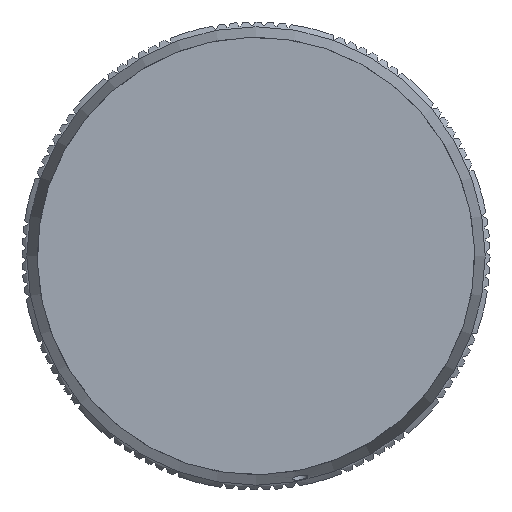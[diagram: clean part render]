
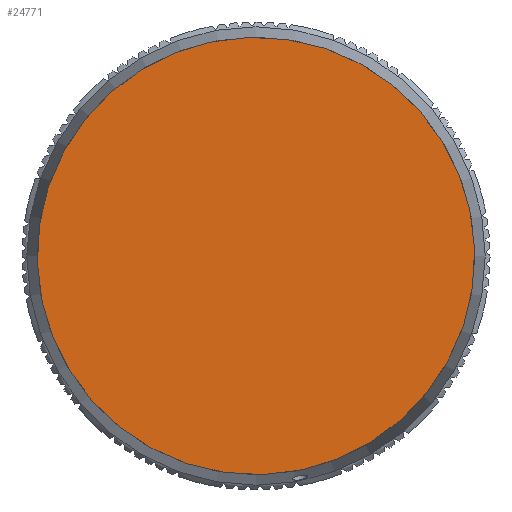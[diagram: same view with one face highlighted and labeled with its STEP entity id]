
A CAD part, left-side view. The second image highlights one B-rep face of the part: STEP entity #24771.
In plain terms, the highlighted planar face has unit normal (-1, 0, 0).
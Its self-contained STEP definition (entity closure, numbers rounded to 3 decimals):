
#24755=CARTESIAN_POINT('',(7.379,61.956,-8.833));
#24756=DIRECTION('',(-1.0,0.0,0.0));
#24757=DIRECTION('',(0.0,0.201,0.98));
#24758=AXIS2_PLACEMENT_3D('',#24755,#24756,#24757);
#24759=PLANE('',#24758);
#24760=CARTESIAN_POINT('',(7.379,63.766,-9.204));
#24761=VERTEX_POINT('',#24760);
#24762=CARTESIAN_POINT('',(7.379,18.9,0.));
#24763=DIRECTION('',(1.0,0.,0.));
#24764=DIRECTION('',(0.,0.98,-0.201));
#24765=AXIS2_PLACEMENT_3D('',#24762,#24763,#24764);
#24766=CIRCLE('',#24765,45.8);
#24767=EDGE_CURVE('',#24761,#24761,#24766,.T.);
#24768=ORIENTED_EDGE('',*,*,#24767,.F.);
#24769=EDGE_LOOP('',(#24768));
#24770=FACE_OUTER_BOUND('',#24769,.T.);
#24771=ADVANCED_FACE('',(#24770),#24759,.T.);
